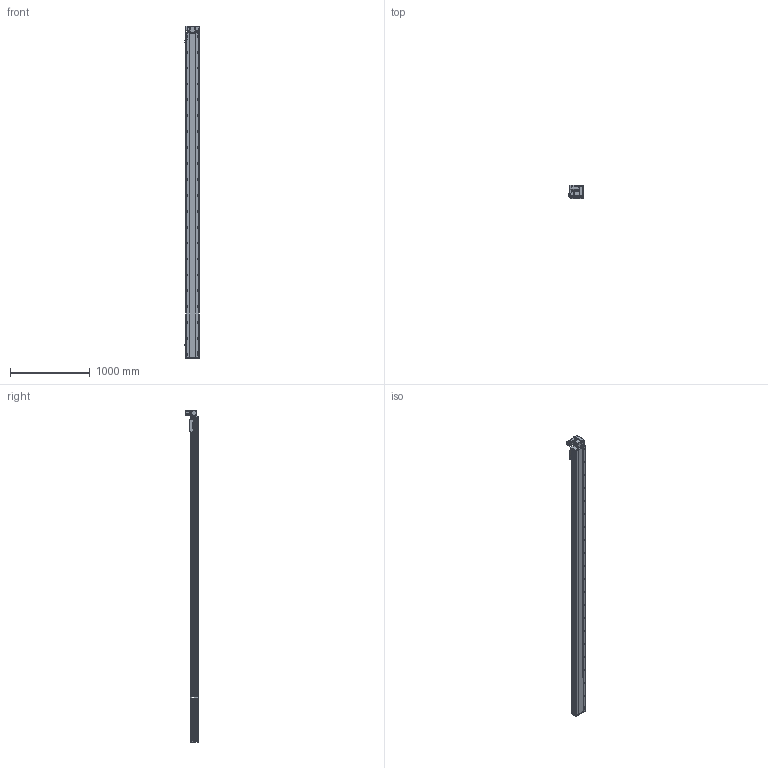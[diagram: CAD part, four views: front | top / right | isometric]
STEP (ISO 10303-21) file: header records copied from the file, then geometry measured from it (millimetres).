
FILE_DESCRIPTION (( 'STEP AP214' ), '1' );
FILE_NAME ('RTB17S-XX-3850-RW-M40-C4.STEP', '2025-12-11T09:23:38', ( '' ), ( '' ), 'SwSTEP 2.0', 'SolidWorks 2018', '' );
FILE_SCHEMA (( 'AUTOMOTIVE_DESIGN' ));
Length unit declared in the file: millimetre
Products named in the file (14): RTH13-BL-012覜茼え俋离^RTB17S-XX-XX-RW-M40-C4; RTB17S-XX-3850-RW-M40-C4; RTB17S-L-004佪裝蹟譫蟀諉釱^RTB17S-XX-XX-RW-M40-C4; RTB17S-L-001耜醱啣^RTB17S-XX-XX-RW-M40-C4; 400W侜督萇儂^RTB17S-XX-XX-RW-M40-C4; RMP17S-L-014-T20--々湍釱^RTB17S-RW-々湍釱蚾饜-400W_RTB17S-XX-XX-RW-M40-C4; RTB17S-RW-々湍釱蚾饜-400W^RTB17S-XX-XX-RW-M40-C4; RTB17-R-011菁釱^RTB17S-XX-XX-RW-M40-C4; RTB17S-L-007奻裔^RTB17S-XX-XX-RW-M40-C4; RTB14-L-018P^RTB17S-RW-々湍釱蚾饜-400W_RTB17S-XX-XX-RW-M40-C4; RTB14-L-017P^RTB17S-RW-々湍釱蚾饜-400W_RTB17S-XX-XX-RW-M40-C4; RTB14-L-008-M20--萇儂啣^RTB17S-RW-々湍釱蚾饜-400W_RTB17S-XX-XX-RW-M40-C4; RTB14-L-005P--轴承塑胶压盖^RTB17S-RW-皮带座装配-400W_RTB17S-XX-XX-RW-M40-C4; OMRON EE-SX672 传感器^RTB17S-XX-XX-RW-M40-C4
Assembly tree (16 placements, depth 3):
  RTB17S-XX-3850-RW-M40-C4
    RTB17-R-011菁釱^RTB17S-XX-XX-RW-M40-C4
    RTB17S-L-007奻裔^RTB17S-XX-XX-RW-M40-C4
    OMRON EE-SX672 传感器^RTB17S-XX-XX-RW-M40-C4  x3
    RTB17S-L-001耜醱啣^RTB17S-XX-XX-RW-M40-C4
    400W侜督萇儂^RTB17S-XX-XX-RW-M40-C4
    RTB17S-L-004佪裝蹟譫蟀諉釱^RTB17S-XX-XX-RW-M40-C4
    RTH13-BL-012覜茼え俋离^RTB17S-XX-XX-RW-M40-C4
    RTB17S-RW-々湍釱蚾饜-400W^RTB17S-XX-XX-RW-M40-C4
      RMP17S-L-014-T20--々湍釱^RTB17S-RW-々湍釱蚾饜-400W_RTB17S-XX-XX-RW-M40-C4
      RTB14-L-005P--轴承塑胶压盖^RTB17S-RW-皮带座装配-400W_RTB17S-XX-XX-RW-M40-C4
      RTB14-L-008-M20--萇儂啣^RTB17S-RW-々湍釱蚾饜-400W_RTB17S-XX-XX-RW-M40-C4
      RTB14-L-017P^RTB17S-RW-々湍釱蚾饜-400W_RTB17S-XX-XX-RW-M40-C4  x2
      RTB14-L-018P^RTB17S-RW-々湍釱蚾饜-400W_RTB17S-XX-XX-RW-M40-C4
Bounding box: 183.5 x 160.5 x 4172.5 mm (x, y, z)
Volume: 35210719.4 mm3; surface area: 3987181.4 mm2
Topology: 15 solids, 15 shells, 2429 faces, 6843 edges, 4473 vertices
Faces by surface type: plane 1096, cylinder 885, bspline 301, cone 139, torus 8
Entity records: 73385 total; most frequent: CARTESIAN_POINT 21048, ORIENTED_EDGE 10530, DIRECTION 9656, EDGE_CURVE 5265, VERTEX_POINT 3461, AXIS2_PLACEMENT_3D 3391, VECTOR 2874, LINE 2874
